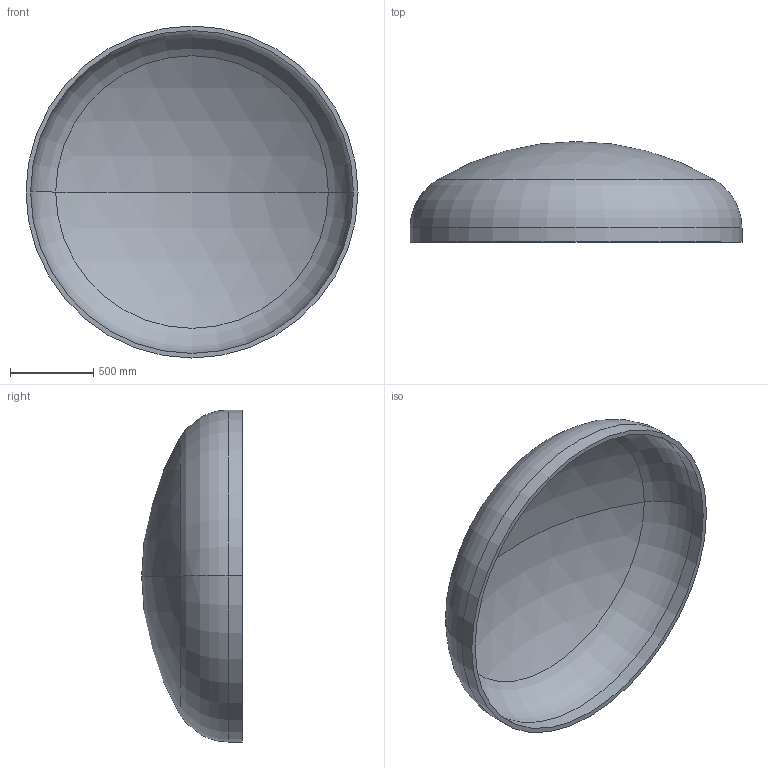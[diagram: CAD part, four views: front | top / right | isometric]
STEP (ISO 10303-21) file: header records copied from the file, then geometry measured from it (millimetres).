
FILE_DESCRIPTION (( 'STEP AP203' ), '1' );
FILE_NAME ('DIN 28013 Korbbogenform_-_Boden DIN 28013 - 2000 x 85 - I - s=28.step', '2016-07-01T13:45:20', ( '' ), ( '' ), 'SwSTEP 2.0', 'SolidWorks 2013', '' );
FILE_SCHEMA (( 'CONFIG_CONTROL_DESIGN' ));
Length unit declared in the file: millimetre
Products named in the file (1): DIN 28013 Korbbogenform_-_Boden DIN 28013 - 2000 x 85 - I - s=28
Bounding box: 2000 x 605.82 x 2000 mm (x, y, z)
Volume: 134494629.3 mm3; surface area: 9781864.1 mm2
Topology: 1 solids, 1 shells, 13 faces, 24 edges, 14 vertices
Faces by surface type: torus 4, cylinder 4, sphere 4, plane 1
Entity records: 407 total; most frequent: DIRECTION 72, CARTESIAN_POINT 52, ORIENTED_EDGE 48, AXIS2_PLACEMENT_3D 34, EDGE_CURVE 24, CIRCLE 20, VERTEX_POINT 14, EDGE_LOOP 14
